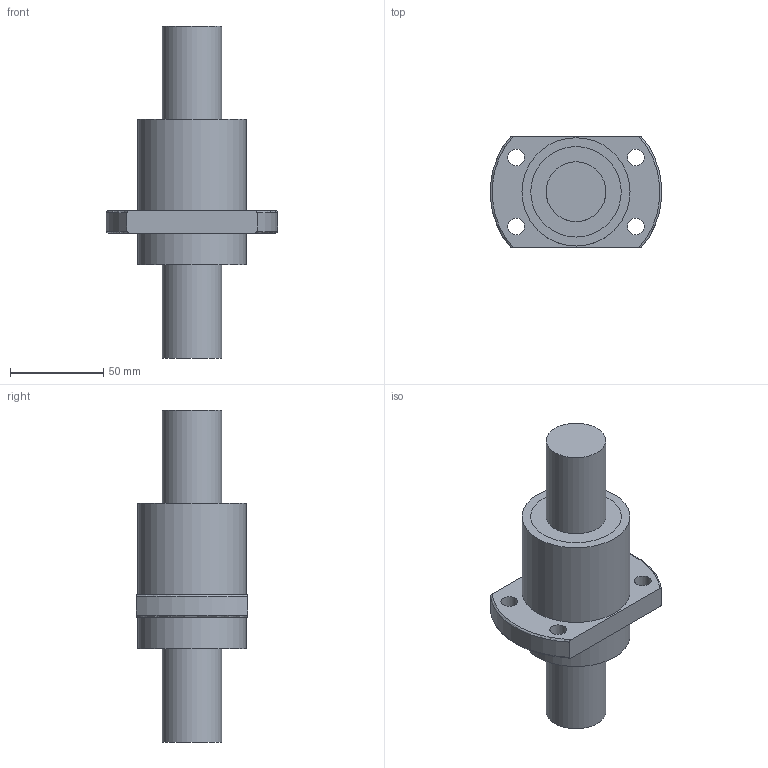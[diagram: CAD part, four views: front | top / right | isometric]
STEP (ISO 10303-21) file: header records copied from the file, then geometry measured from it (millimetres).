
FILE_DESCRIPTION(/* description */ (''),/* implementation_level */ '2;1');
FILE_NAME(/* name */ 'SFY3232.stp',/* time_stamp */ '2013-11-01T09:49:01+08:00',/* author */ (''),/* organization */ (''),/* preprocessor_version */ 'ST-DEVELOPER v11',/* originating_system */ 'SIEMENS UGS NX 6.0',/* authorisation */ '');
FILE_SCHEMA (('CONFIG_CONTROL_DESIGN'));
Length unit declared in the file: millimetre
Products named in the file (1): fann640Fk5nr
Bounding box: 91.71 x 60 x 178 mm (x, y, z)
Volume: 312879 mm3; surface area: 61259.3 mm2
Topology: 4 solids, 4 shells, 50 faces, 96 edges, 66 vertices
Faces by surface type: cylinder 24, plane 22, torus 4
Full cylindrical faces by diameter (mm): 9 x4, 32 x4, 42.7 x4, 48.5 x4, 50 x4, 58 x2
Entity records: 1370 total; most frequent: CARTESIAN_POINT 318, DIRECTION 216, ORIENTED_EDGE 136, AXIS2_PLACEMENT_3D 104, EDGE_LOOP 98, FACE_BOUND 88, EDGE_CURVE 68, VERTEX_POINT 60
